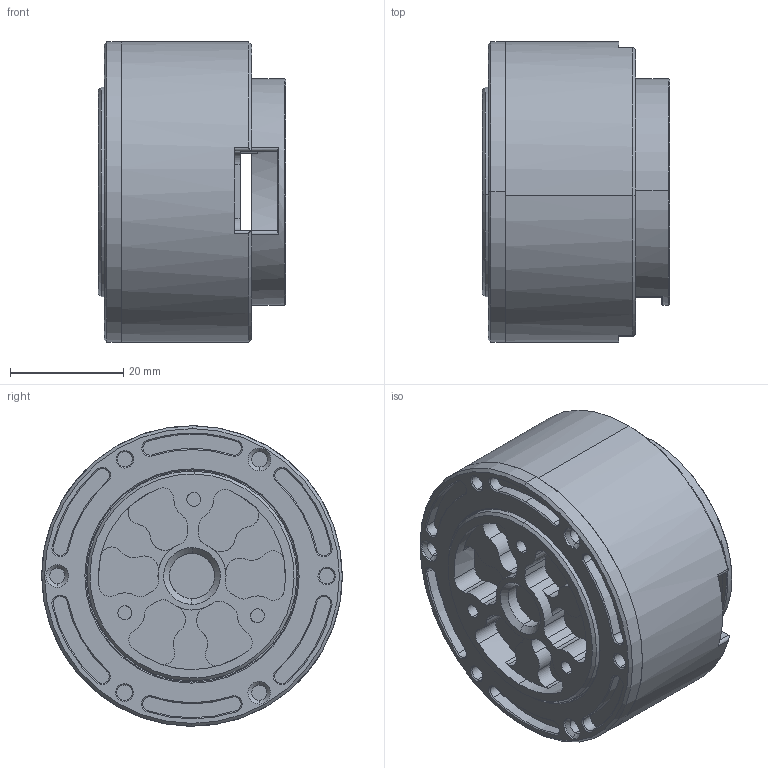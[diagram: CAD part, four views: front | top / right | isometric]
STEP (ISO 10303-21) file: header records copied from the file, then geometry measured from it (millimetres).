
FILE_DESCRIPTION (( 'STEP AP203' ), '1' );
FILE_NAME ('GIM4305-10SHS假蚾芞 _25071701.STEP', '2025-07-17T02:24:09', ( '' ), ( '' ), 'SwSTEP 2.0', 'SolidWorks 2016', '' );
FILE_SCHEMA (( 'CONFIG_CONTROL_DESIGN' ));
Length unit declared in the file: millimetre
Products named in the file (4): V6_X2_8F74627F76D6_X0_; GIM4305-10SHS假蚾芞 _25071701; V6SHS_X2_540E673A58F3_X0_-_X2_5B8988C556FE_X0_; X4_X2_540E76D6_X0_
Assembly tree (3 placements, depth 2):
  GIM4305-10SHS假蚾芞 _25071701
    V6SHS_X2_540E673A58F3_X0_-_X2_5B8988C556FE_X0_
    X4_X2_540E76D6_X0_
    V6_X2_8F74627F76D6_X0_
Bounding box: 33 x 53 x 53 mm (x, y, z)
Volume: 53742.5 mm3; surface area: 17754.7 mm2
Topology: 3 solids, 3 shells, 356 faces, 889 edges, 570 vertices
Faces by surface type: cylinder 219, plane 69, cone 64, bspline 4
Entity records: 12631 total; most frequent: CARTESIAN_POINT 3552, DIRECTION 1910, ORIENTED_EDGE 1778, EDGE_CURVE 889, AXIS2_PLACEMENT_3D 787, VERTEX_POINT 570, CIRCLE 429, EDGE_LOOP 405
